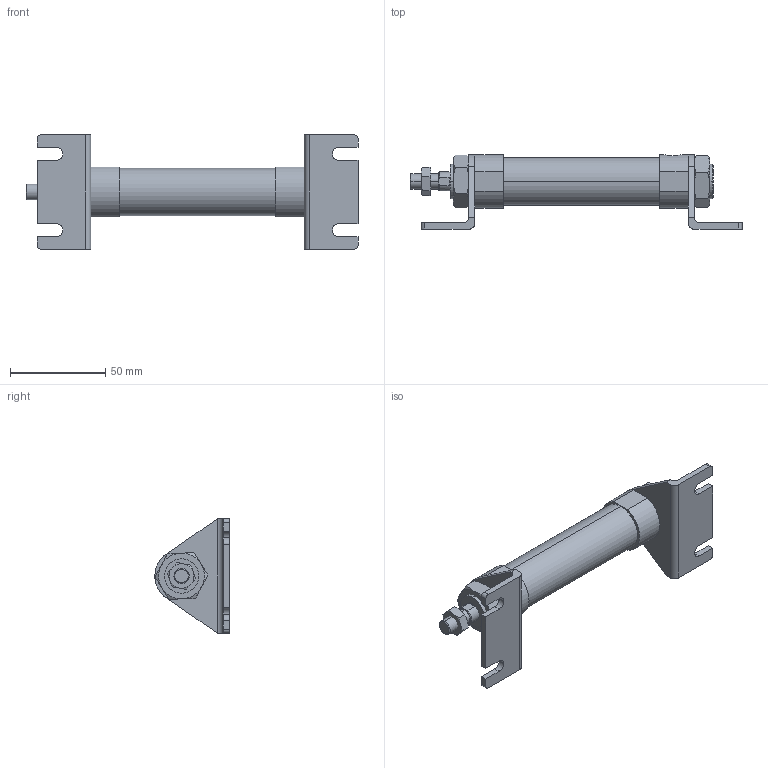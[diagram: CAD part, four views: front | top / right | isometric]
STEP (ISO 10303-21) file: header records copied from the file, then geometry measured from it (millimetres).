
FILE_DESCRIPTION (( 'STEP AP203' ), '1' );
FILE_NAME ('J#1-20-15(25)-L.STEP', '2016-03-10T00:45:02', ( '' ), ( '' ), 'SwSTEP 2.0', 'SolidWorks 2014', '' );
FILE_SCHEMA (( 'CONFIG_CONTROL_DESIGN' ));
Length unit declared in the file: millimetre
Products named in the file (5): J#2-20-L; J#1-20-15(25)-L; J#1-20-15
Assembly tree (6 placements, depth 2):
  J#1-20-15(25)-L
    J#1-20-15
    (unnamed)
    (unnamed)  x2
    J#2-20-L  x2
Bounding box: 174.2 x 39 x 60 mm (x, y, z)
Volume: 87287.4 mm3; surface area: 28851.1 mm2
Topology: 6 solids, 6 shells, 165 faces, 386 edges, 242 vertices
Faces by surface type: plane 73, cylinder 50, torus 36, cone 6
Entity records: 4138 total; most frequent: CARTESIAN_POINT 946, DIRECTION 565, ORIENTED_EDGE 530, EDGE_CURVE 265, AXIS2_PLACEMENT_3D 229, VERTEX_POINT 166, EDGE_LOOP 131, ADVANCED_FACE 116
